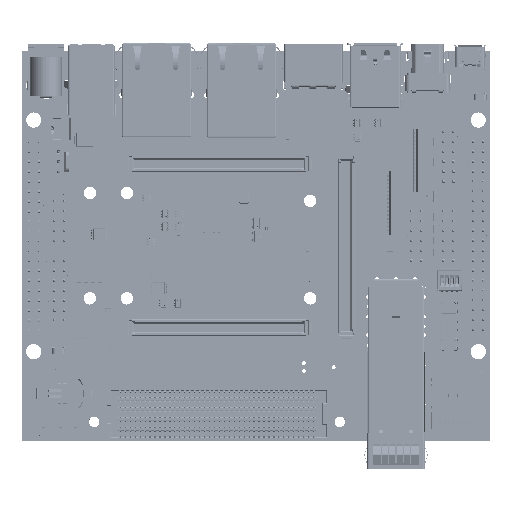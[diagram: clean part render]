
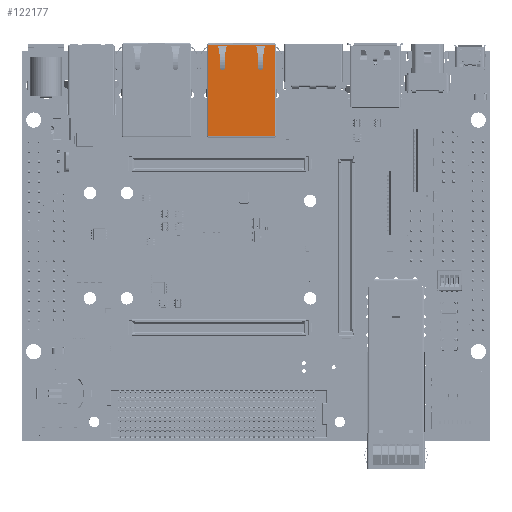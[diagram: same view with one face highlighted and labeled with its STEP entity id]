
A CAD part, top view. The second image highlights one B-rep face of the part: STEP entity #122177.
In plain terms, the highlighted planar face has unit normal (0, 0, 1) as drawn and (0, 1, 0) by its records, which use the part's own axes.
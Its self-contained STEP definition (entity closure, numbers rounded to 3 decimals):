
#119610 = VERTEX_POINT('',#119611);
#119611 = CARTESIAN_POINT('',(8.49,5.775,-0.3));
#119625 = EDGE_CURVE('',#119626,#119610,#119628,.T.);
#119626 = VERTEX_POINT('',#119627);
#119627 = CARTESIAN_POINT('',(-8.49,5.775,-0.3));
#119628 = LINE('',#119629,#119630);
#119629 = CARTESIAN_POINT('',(-8.49,5.775,-0.3));
#119630 = VECTOR('',#119631,1.);
#119631 = DIRECTION('',(1.,0.,0.));
#122072 = VERTEX_POINT('',#122073);
#122073 = CARTESIAN_POINT('',(8.49,5.775,-23.83));
#122159 = VERTEX_POINT('',#122160);
#122160 = CARTESIAN_POINT('',(-8.49,5.775,-23.83));
#122167 = EDGE_CURVE('',#122072,#122159,#122168,.T.);
#122168 = LINE('',#122169,#122170);
#122169 = CARTESIAN_POINT('',(8.49,5.775,-23.83));
#122170 = VECTOR('',#122171,1.);
#122171 = DIRECTION('',(-1.,0.,0.));
#122177 = ADVANCED_FACE('',(#122178,#122194,#122228),#122262,.T.);
#122178 = FACE_BOUND('',#122179,.F.);
#122179 = EDGE_LOOP('',(#122180,#122181,#122187,#122188));
#122180 = ORIENTED_EDGE('',*,*,#119625,.F.);
#122181 = ORIENTED_EDGE('',*,*,#122182,.T.);
#122182 = EDGE_CURVE('',#119626,#122159,#122183,.T.);
#122183 = LINE('',#122184,#122185);
#122184 = CARTESIAN_POINT('',(-8.49,5.775,-0.3));
#122185 = VECTOR('',#122186,1.);
#122186 = DIRECTION('',(0.,0.,-1.));
#122187 = ORIENTED_EDGE('',*,*,#122167,.F.);
#122188 = ORIENTED_EDGE('',*,*,#122189,.T.);
#122189 = EDGE_CURVE('',#122072,#119610,#122190,.T.);
#122190 = LINE('',#122191,#122192);
#122191 = CARTESIAN_POINT('',(8.49,5.775,-23.83));
#122192 = VECTOR('',#122193,1.);
#122193 = DIRECTION('',(0.,0.,1.));
#122194 = FACE_BOUND('',#122195,.F.);
#122195 = EDGE_LOOP('',(#122196,#122206,#122214,#122222));
#122196 = ORIENTED_EDGE('',*,*,#122197,.F.);
#122197 = EDGE_CURVE('',#122198,#122200,#122202,.T.);
#122198 = VERTEX_POINT('',#122199);
#122199 = CARTESIAN_POINT('',(3.857,5.775,-1.021));
#122200 = VERTEX_POINT('',#122201);
#122201 = CARTESIAN_POINT('',(5.943,5.775,-1.021));
#122202 = LINE('',#122203,#122204);
#122203 = CARTESIAN_POINT('',(3.857,5.775,-1.021));
#122204 = VECTOR('',#122205,1.);
#122205 = DIRECTION('',(1.,0.,0.));
#122206 = ORIENTED_EDGE('',*,*,#122207,.F.);
#122207 = EDGE_CURVE('',#122208,#122198,#122210,.T.);
#122208 = VERTEX_POINT('',#122209);
#122209 = CARTESIAN_POINT('',(3.802,5.775,-0.719));
#122210 = LINE('',#122211,#122212);
#122211 = CARTESIAN_POINT('',(3.802,5.775,-0.719));
#122212 = VECTOR('',#122213,1.);
#122213 = DIRECTION('',(0.181,0.,-0.984));
#122214 = ORIENTED_EDGE('',*,*,#122215,.T.);
#122215 = EDGE_CURVE('',#122208,#122216,#122218,.T.);
#122216 = VERTEX_POINT('',#122217);
#122217 = CARTESIAN_POINT('',(5.998,5.775,-0.719));
#122218 = LINE('',#122219,#122220);
#122219 = CARTESIAN_POINT('',(3.802,5.775,-0.719));
#122220 = VECTOR('',#122221,1.);
#122221 = DIRECTION('',(1.,0.,0.));
#122222 = ORIENTED_EDGE('',*,*,#122223,.F.);
#122223 = EDGE_CURVE('',#122200,#122216,#122224,.T.);
#122224 = LINE('',#122225,#122226);
#122225 = CARTESIAN_POINT('',(5.943,5.775,-1.021));
#122226 = VECTOR('',#122227,1.);
#122227 = DIRECTION('',(0.181,0.,0.984));
#122228 = FACE_BOUND('',#122229,.F.);
#122229 = EDGE_LOOP('',(#122230,#122240,#122248,#122256));
#122230 = ORIENTED_EDGE('',*,*,#122231,.T.);
#122231 = EDGE_CURVE('',#122232,#122234,#122236,.T.);
#122232 = VERTEX_POINT('',#122233);
#122233 = CARTESIAN_POINT('',(-5.998,5.775,-0.719));
#122234 = VERTEX_POINT('',#122235);
#122235 = CARTESIAN_POINT('',(-3.802,5.775,-0.719));
#122236 = LINE('',#122237,#122238);
#122237 = CARTESIAN_POINT('',(-5.998,5.775,-0.719));
#122238 = VECTOR('',#122239,1.);
#122239 = DIRECTION('',(1.,0.,0.));
#122240 = ORIENTED_EDGE('',*,*,#122241,.F.);
#122241 = EDGE_CURVE('',#122242,#122234,#122244,.T.);
#122242 = VERTEX_POINT('',#122243);
#122243 = CARTESIAN_POINT('',(-3.857,5.775,-1.021));
#122244 = LINE('',#122245,#122246);
#122245 = CARTESIAN_POINT('',(-3.857,5.775,-1.021));
#122246 = VECTOR('',#122247,1.);
#122247 = DIRECTION('',(0.181,0.,0.984));
#122248 = ORIENTED_EDGE('',*,*,#122249,.F.);
#122249 = EDGE_CURVE('',#122250,#122242,#122252,.T.);
#122250 = VERTEX_POINT('',#122251);
#122251 = CARTESIAN_POINT('',(-5.943,5.775,-1.021));
#122252 = LINE('',#122253,#122254);
#122253 = CARTESIAN_POINT('',(-5.943,5.775,-1.021));
#122254 = VECTOR('',#122255,1.);
#122255 = DIRECTION('',(1.,0.,0.));
#122256 = ORIENTED_EDGE('',*,*,#122257,.F.);
#122257 = EDGE_CURVE('',#122232,#122250,#122258,.T.);
#122258 = LINE('',#122259,#122260);
#122259 = CARTESIAN_POINT('',(-5.998,5.775,-0.719));
#122260 = VECTOR('',#122261,1.);
#122261 = DIRECTION('',(0.181,0.,-0.984));
#122262 = PLANE('',#122263);
#122263 = AXIS2_PLACEMENT_3D('',#122264,#122265,#122266);
#122264 = CARTESIAN_POINT('',(8.89,5.775,-24.13));
#122265 = DIRECTION('',(0.,1.,0.));
#122266 = DIRECTION('',(0.,0.,1.));
